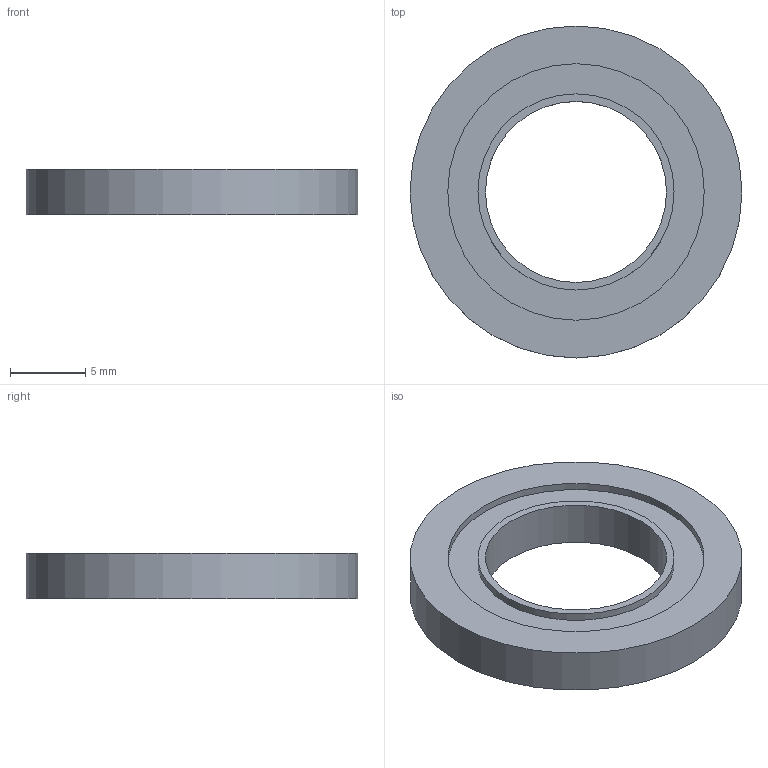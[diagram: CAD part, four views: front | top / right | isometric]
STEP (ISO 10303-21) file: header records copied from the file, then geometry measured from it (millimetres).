
FILE_DESCRIPTION(/* description */ (''),/* implementation_level */ '2;1');
FILE_NAME(/* name */ 'W:\WEBOVKY\Knecht\VD\VD12\VD12.stp',/* time_stamp */ '2021-03-08T12:29:01+01:00',/* author */ ('mkorenek'),/* organization */ (''),/* preprocessor_version */ 'ST-DEVELOPER v18.1',/* originating_system */ 'Autodesk Inventor 2021',/* authorisation */ '');
FILE_SCHEMA (('AUTOMOTIVE_DESIGN { 1 0 10303 214 3 1 1 }'));
Length unit declared in the file: millimetre
Products named in the file (1): VD12
Bounding box: 22 x 22 x 3 mm (x, y, z)
Volume: 754 mm3; surface area: 901.6 mm2
Topology: 1 solids, 1 shells, 8 faces, 16 edges, 12 vertices
Faces by surface type: plane 4, cylinder 4
Full cylindrical faces by diameter (mm): 12 x1, 13 x1, 17 x1, 22 x1
Entity records: 269 total; most frequent: DIRECTION 46, CARTESIAN_POINT 37, ORIENTED_EDGE 32, AXIS2_PLACEMENT_3D 21, EDGE_CURVE 16, EDGE_LOOP 12, CIRCLE 12, VERTEX_POINT 12
